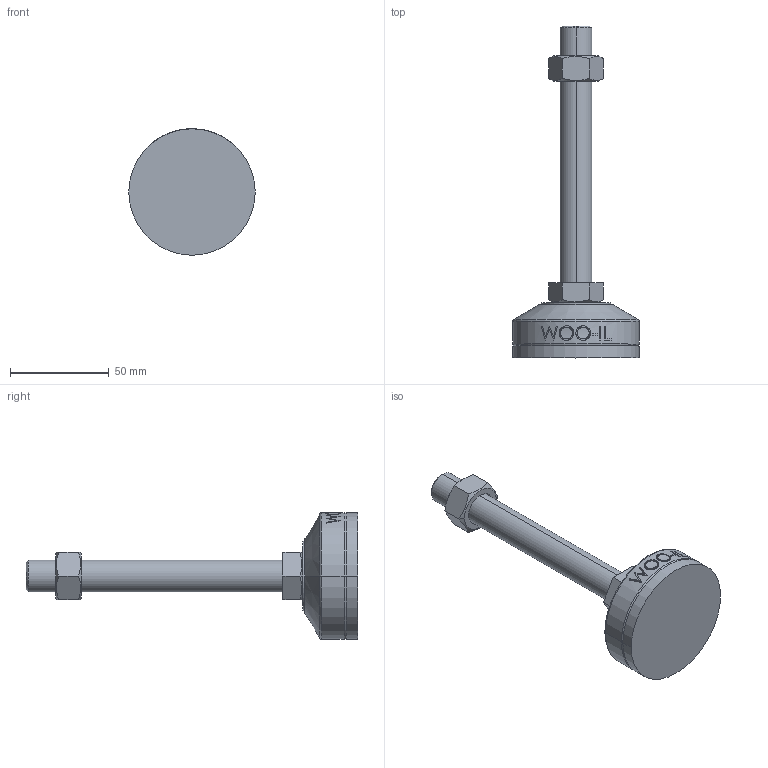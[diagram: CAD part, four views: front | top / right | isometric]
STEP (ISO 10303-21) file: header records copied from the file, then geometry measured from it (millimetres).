
FILE_DESCRIPTION (( 'STEP AP214' ), '1' );
FILE_NAME ('MFZR64-M16-130.step', '2021-03-29T06:55:48', ( '' ), ( '' ), 'SwSTEP 2.0', 'SolidWorks 2019', '' );
FILE_SCHEMA (( 'AUTOMOTIVE_DESIGN' ));
Length unit declared in the file: millimetre
Products named in the file (2): MFZR64-M16-130
Bounding box: 64 x 168 x 64 mm (x, y, z)
Volume: 113262.1 mm3; surface area: 27564.7 mm2
Topology: 4 solids, 4 shells, 103 faces, 235 edges, 150 vertices
Faces by surface type: plane 49, cylinder 18, bspline 16, cone 14, torus 6
Entity records: 4435 total; most frequent: CARTESIAN_POINT 2162, ORIENTED_EDGE 470, DIRECTION 417, EDGE_CURVE 235, AXIS2_PLACEMENT_3D 159, VERTEX_POINT 150, EDGE_LOOP 115, FACE_OUTER_BOUND 103
